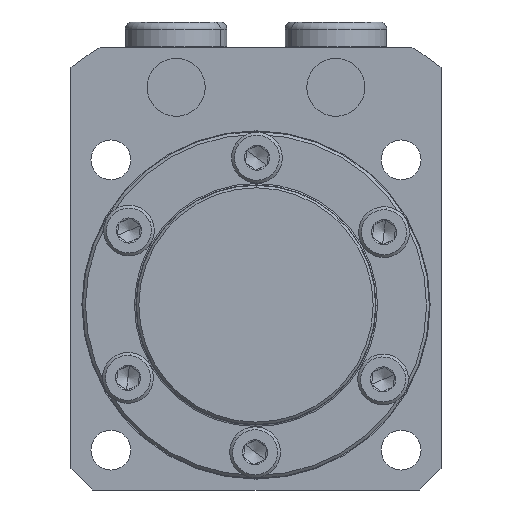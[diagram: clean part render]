
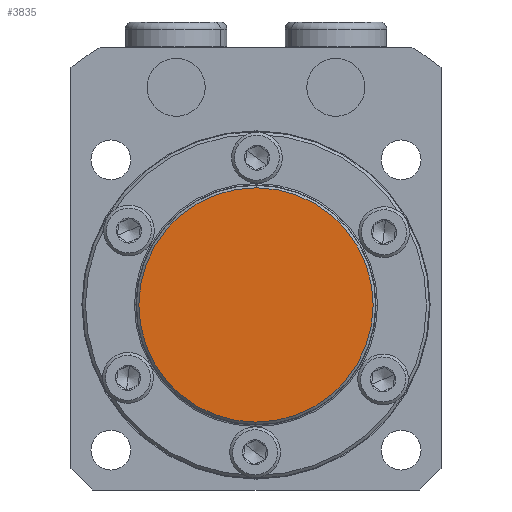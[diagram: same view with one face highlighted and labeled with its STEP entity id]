
A CAD part, front view. The second image highlights one B-rep face of the part: STEP entity #3835.
In plain terms, the highlighted planar face has unit normal (0, -1, 0).
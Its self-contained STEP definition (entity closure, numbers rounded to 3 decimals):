
#86 = ORIENTED_EDGE ( 'NONE', *, *, #987, .T. ) ;
#146 = AXIS2_PLACEMENT_3D ( 'NONE', #4755, #2150, #5182 ) ;
#379 = EDGE_LOOP ( 'NONE', ( #2208, #86 ) ) ;
#987 = EDGE_CURVE ( 'NONE', #1071, #4692, #3710, .T. ) ;
#1005 = FACE_OUTER_BOUND ( 'NONE', #379, .T. ) ;
#1071 = VERTEX_POINT ( 'NONE', #1821 ) ;
#1311 = EDGE_CURVE ( 'NONE', #4692, #1071, #2486, .T. ) ;
#1518 = DIRECTION ( 'NONE',  ( 0., -1., 0. ) ) ;
#1821 = CARTESIAN_POINT ( 'NONE',  ( 0., -8.5, -16.15 ) ) ;
#2150 = DIRECTION ( 'NONE',  ( 0., -1., 0. ) ) ;
#2189 = DIRECTION ( 'NONE',  ( 0., 0., -1. ) ) ;
#2208 = ORIENTED_EDGE ( 'NONE', *, *, #1311, .T. ) ;
#2255 = CARTESIAN_POINT ( 'NONE',  ( 0., -8.5, 16.15 ) ) ;
#2486 = CIRCLE ( 'NONE', #5528, 16.15 ) ;
#3052 = PLANE ( 'NONE',  #5067 ) ;
#3710 = CIRCLE ( 'NONE', #146, 16.15 ) ;
#3835 = ADVANCED_FACE ( 'NONE', ( #1005 ), #3052, .T. ) ;
#4079 = CARTESIAN_POINT ( 'NONE',  ( 0., -8.5, 0. ) ) ;
#4353 = CARTESIAN_POINT ( 'NONE',  ( 0., -8.5, 0. ) ) ;
#4530 = DIRECTION ( 'NONE',  ( 0., 0., -1. ) ) ;
#4692 = VERTEX_POINT ( 'NONE', #2255 ) ;
#4755 = CARTESIAN_POINT ( 'NONE',  ( 0., -8.5, 0. ) ) ;
#4803 = DIRECTION ( 'NONE',  ( 0., -1., 0. ) ) ;
#5067 = AXIS2_PLACEMENT_3D ( 'NONE', #4353, #4803, #2189 ) ;
#5182 = DIRECTION ( 'NONE',  ( 0., 0., -1. ) ) ;
#5528 = AXIS2_PLACEMENT_3D ( 'NONE', #4079, #1518, #4530 ) ;
